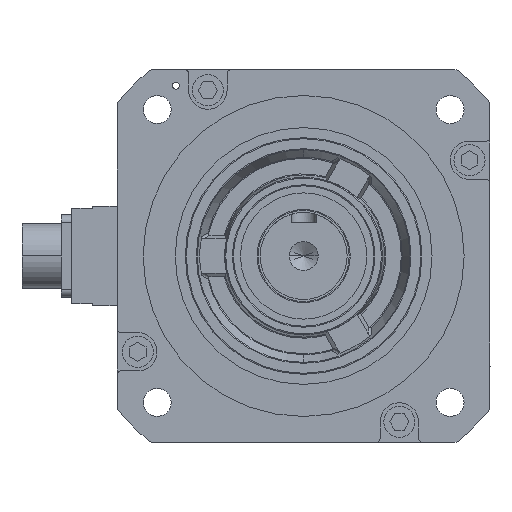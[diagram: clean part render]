
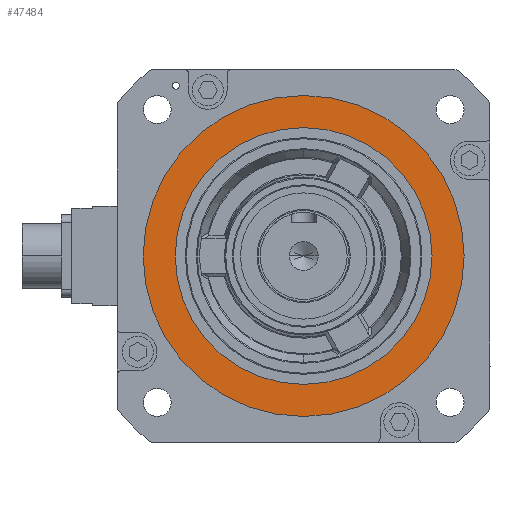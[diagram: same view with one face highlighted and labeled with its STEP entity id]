
A CAD part, left-side view. The second image highlights one B-rep face of the part: STEP entity #47484.
In plain terms, the highlighted planar face has unit normal (-1, 0, 0) as drawn and (0, 0, -1) by its records, which use the part's own axes.
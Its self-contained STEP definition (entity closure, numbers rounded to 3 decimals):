
#2312 = CIRCLE ( 'NONE', #54238, 62. ) ;
#2580 = VERTEX_POINT ( 'NONE', #45408 ) ;
#5321 = AXIS2_PLACEMENT_3D ( 'NONE', #10598, #15487, #48138 ) ;
#10598 = CARTESIAN_POINT ( 'NONE',  ( 0., 62., 3.8 ) ) ;
#12579 = DIRECTION ( 'NONE',  ( 0., 0., 1. ) ) ;
#12831 = DIRECTION ( 'NONE',  ( 1., 0., 0. ) ) ;
#13178 = CARTESIAN_POINT ( 'NONE',  ( 0., 0., 3.8 ) ) ;
#13378 = ORIENTED_EDGE ( 'NONE', *, *, #29558, .T. ) ;
#14881 = PLANE ( 'NONE',  #5321 ) ;
#15487 = DIRECTION ( 'NONE',  ( 0., 0., -1. ) ) ;
#18770 = DIRECTION ( 'NONE',  ( 0., 0., 1. ) ) ;
#19534 = EDGE_CURVE ( 'NONE', #40337, #2580, #56972, .T. ) ;
#20391 = FACE_BOUND ( 'NONE', #38244, .T. ) ;
#21051 = EDGE_LOOP ( 'NONE', ( #54464, #47774 ) ) ;
#21452 = ORIENTED_EDGE ( 'NONE', *, *, #30373, .T. ) ;
#21963 = CARTESIAN_POINT ( 'NONE',  ( 0., 0., 3.8 ) ) ;
#21965 = CIRCLE ( 'NONE', #28941, 62. ) ;
#24147 = CIRCLE ( 'NONE', #34967, 77.5 ) ;
#26731 = CARTESIAN_POINT ( 'NONE',  ( -62., 0., 3.8 ) ) ;
#27780 = DIRECTION ( 'NONE',  ( 0., 0., 1. ) ) ;
#28941 = AXIS2_PLACEMENT_3D ( 'NONE', #21963, #54918, #54524 ) ;
#29558 = EDGE_CURVE ( 'NONE', #44862, #52338, #2312, .T. ) ;
#30373 = EDGE_CURVE ( 'NONE', #52338, #44862, #21965, .T. ) ;
#34967 = AXIS2_PLACEMENT_3D ( 'NONE', #54846, #27780, #12831 ) ;
#35406 = CARTESIAN_POINT ( 'NONE',  ( 77.5, 0., 3.8 ) ) ;
#36675 = DIRECTION ( 'NONE',  ( 1., 0., 0. ) ) ;
#37028 = EDGE_CURVE ( 'NONE', #2580, #40337, #24147, .T. ) ;
#38244 = EDGE_LOOP ( 'NONE', ( #21452, #13378 ) ) ;
#38552 = CARTESIAN_POINT ( 'NONE',  ( 62., 0., 3.8 ) ) ;
#40337 = VERTEX_POINT ( 'NONE', #35406 ) ;
#41290 = FACE_OUTER_BOUND ( 'NONE', #21051, .T. ) ;
#41317 = AXIS2_PLACEMENT_3D ( 'NONE', #13178, #12579, #36675 ) ;
#44862 = VERTEX_POINT ( 'NONE', #26731 ) ;
#45408 = CARTESIAN_POINT ( 'NONE',  ( -77.5, 0., 3.8 ) ) ;
#46504 = DIRECTION ( 'NONE',  ( 1., 0., 0. ) ) ;
#47484 = ADVANCED_FACE ( 'NONE', ( #20391, #41290 ), #14881, .T. ) ;
#47774 = ORIENTED_EDGE ( 'NONE', *, *, #37028, .F. ) ;
#48138 = DIRECTION ( 'NONE',  ( -1., 0., 0. ) ) ;
#52338 = VERTEX_POINT ( 'NONE', #38552 ) ;
#54238 = AXIS2_PLACEMENT_3D ( 'NONE', #56041, #18770, #46504 ) ;
#54464 = ORIENTED_EDGE ( 'NONE', *, *, #19534, .F. ) ;
#54524 = DIRECTION ( 'NONE',  ( 1., 0., 0. ) ) ;
#54846 = CARTESIAN_POINT ( 'NONE',  ( 0., 0., 3.8 ) ) ;
#54918 = DIRECTION ( 'NONE',  ( 0., 0., 1. ) ) ;
#56041 = CARTESIAN_POINT ( 'NONE',  ( 0., 0., 3.8 ) ) ;
#56972 = CIRCLE ( 'NONE', #41317, 77.5 ) ;
